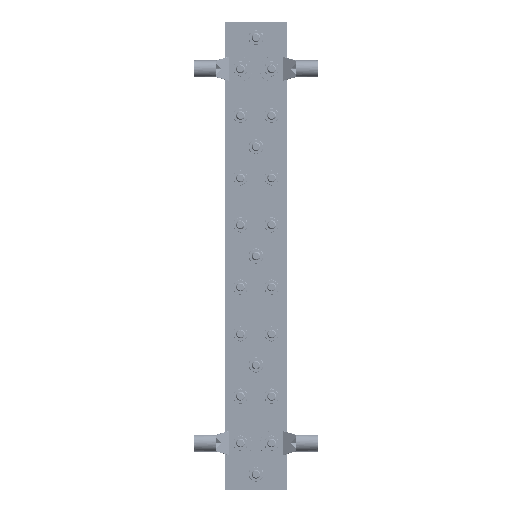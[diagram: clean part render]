
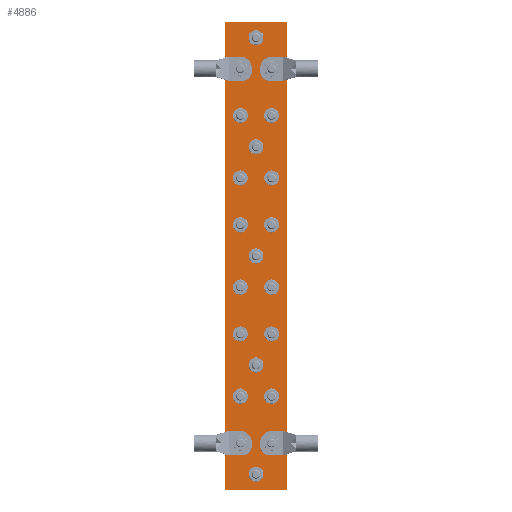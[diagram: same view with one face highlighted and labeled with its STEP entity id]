
A CAD part, top view. The second image highlights one B-rep face of the part: STEP entity #4886.
In plain terms, the highlighted planar face has unit normal (0, 0, 1) as drawn and (0, 0, -1) by its records, which use the part's own axes.
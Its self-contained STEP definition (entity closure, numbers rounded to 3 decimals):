
#738=FACE_BOUND('',#1178,.T.);
#739=FACE_BOUND('',#1179,.T.);
#740=FACE_BOUND('',#1180,.T.);
#741=FACE_BOUND('',#1181,.T.);
#742=FACE_BOUND('',#1182,.T.);
#743=FACE_BOUND('',#1183,.T.);
#744=FACE_BOUND('',#1184,.T.);
#745=FACE_BOUND('',#1185,.T.);
#746=FACE_BOUND('',#1186,.T.);
#747=FACE_BOUND('',#1187,.T.);
#748=FACE_BOUND('',#1188,.T.);
#749=FACE_BOUND('',#1189,.T.);
#750=FACE_BOUND('',#1190,.T.);
#751=FACE_BOUND('',#1191,.T.);
#752=FACE_BOUND('',#1192,.T.);
#753=FACE_BOUND('',#1193,.T.);
#754=FACE_BOUND('',#1194,.T.);
#755=FACE_BOUND('',#1195,.T.);
#756=FACE_BOUND('',#1196,.T.);
#757=FACE_BOUND('',#1197,.T.);
#758=FACE_BOUND('',#1198,.T.);
#782=PLANE('',#5294);
#879=FACE_OUTER_BOUND('',#1177,.T.);
#1177=EDGE_LOOP('',(#3461,#3462,#3463,#3464));
#1178=EDGE_LOOP('',(#3465));
#1179=EDGE_LOOP('',(#3466));
#1180=EDGE_LOOP('',(#3467));
#1181=EDGE_LOOP('',(#3468));
#1182=EDGE_LOOP('',(#3469));
#1183=EDGE_LOOP('',(#3470));
#1184=EDGE_LOOP('',(#3471));
#1185=EDGE_LOOP('',(#3472));
#1186=EDGE_LOOP('',(#3473));
#1187=EDGE_LOOP('',(#3474));
#1188=EDGE_LOOP('',(#3475));
#1189=EDGE_LOOP('',(#3476));
#1190=EDGE_LOOP('',(#3477));
#1191=EDGE_LOOP('',(#3478));
#1192=EDGE_LOOP('',(#3479));
#1193=EDGE_LOOP('',(#3480));
#1194=EDGE_LOOP('',(#3481));
#1195=EDGE_LOOP('',(#3482));
#1196=EDGE_LOOP('',(#3483));
#1197=EDGE_LOOP('',(#3484));
#1198=EDGE_LOOP('',(#3485));
#1488=LINE('',#7210,#1741);
#1492=LINE('',#7218,#1745);
#1495=LINE('',#7224,#1748);
#1498=LINE('',#7229,#1751);
#1741=VECTOR('',#5911,10.);
#1745=VECTOR('',#5917,10.);
#1748=VECTOR('',#5922,10.);
#1751=VECTOR('',#5927,10.);
#1974=CIRCLE('',#5228,5.);
#1976=CIRCLE('',#5231,5.);
#1978=CIRCLE('',#5234,5.);
#1980=CIRCLE('',#5237,5.);
#1982=CIRCLE('',#5240,5.);
#1984=CIRCLE('',#5243,5.);
#1986=CIRCLE('',#5246,5.);
#1988=CIRCLE('',#5249,5.);
#1990=CIRCLE('',#5252,5.);
#1992=CIRCLE('',#5255,5.);
#1994=CIRCLE('',#5258,5.);
#1996=CIRCLE('',#5261,5.);
#1998=CIRCLE('',#5264,5.);
#2000=CIRCLE('',#5267,5.);
#2002=CIRCLE('',#5270,5.);
#2004=CIRCLE('',#5273,5.);
#2006=CIRCLE('',#5276,5.);
#2008=CIRCLE('',#5279,5.);
#2010=CIRCLE('',#5282,5.);
#2012=CIRCLE('',#5285,5.);
#2014=CIRCLE('',#5288,5.);
#2166=VERTEX_POINT('',#7084);
#2168=VERTEX_POINT('',#7090);
#2170=VERTEX_POINT('',#7096);
#2172=VERTEX_POINT('',#7102);
#2174=VERTEX_POINT('',#7108);
#2176=VERTEX_POINT('',#7114);
#2178=VERTEX_POINT('',#7120);
#2180=VERTEX_POINT('',#7126);
#2182=VERTEX_POINT('',#7132);
#2184=VERTEX_POINT('',#7138);
#2186=VERTEX_POINT('',#7144);
#2188=VERTEX_POINT('',#7150);
#2190=VERTEX_POINT('',#7156);
#2192=VERTEX_POINT('',#7162);
#2194=VERTEX_POINT('',#7168);
#2196=VERTEX_POINT('',#7174);
#2198=VERTEX_POINT('',#7180);
#2200=VERTEX_POINT('',#7186);
#2202=VERTEX_POINT('',#7192);
#2204=VERTEX_POINT('',#7198);
#2206=VERTEX_POINT('',#7204);
#2207=VERTEX_POINT('',#7208);
#2208=VERTEX_POINT('',#7209);
#2211=VERTEX_POINT('',#7217);
#2213=VERTEX_POINT('',#7223);
#2626=EDGE_CURVE('',#2166,#2166,#1974,.T.);
#2629=EDGE_CURVE('',#2168,#2168,#1976,.T.);
#2632=EDGE_CURVE('',#2170,#2170,#1978,.T.);
#2635=EDGE_CURVE('',#2172,#2172,#1980,.T.);
#2638=EDGE_CURVE('',#2174,#2174,#1982,.T.);
#2641=EDGE_CURVE('',#2176,#2176,#1984,.T.);
#2644=EDGE_CURVE('',#2178,#2178,#1986,.T.);
#2647=EDGE_CURVE('',#2180,#2180,#1988,.T.);
#2650=EDGE_CURVE('',#2182,#2182,#1990,.T.);
#2653=EDGE_CURVE('',#2184,#2184,#1992,.T.);
#2656=EDGE_CURVE('',#2186,#2186,#1994,.T.);
#2659=EDGE_CURVE('',#2188,#2188,#1996,.T.);
#2662=EDGE_CURVE('',#2190,#2190,#1998,.T.);
#2665=EDGE_CURVE('',#2192,#2192,#2000,.T.);
#2668=EDGE_CURVE('',#2194,#2194,#2002,.T.);
#2671=EDGE_CURVE('',#2196,#2196,#2004,.T.);
#2674=EDGE_CURVE('',#2198,#2198,#2006,.T.);
#2677=EDGE_CURVE('',#2200,#2200,#2008,.T.);
#2680=EDGE_CURVE('',#2202,#2202,#2010,.T.);
#2683=EDGE_CURVE('',#2204,#2204,#2012,.T.);
#2686=EDGE_CURVE('',#2206,#2206,#2014,.T.);
#2687=EDGE_CURVE('',#2207,#2208,#1488,.T.);
#2691=EDGE_CURVE('',#2207,#2211,#1492,.T.);
#2694=EDGE_CURVE('',#2213,#2211,#1495,.T.);
#2697=EDGE_CURVE('',#2208,#2213,#1498,.T.);
#3461=ORIENTED_EDGE('',*,*,#2697,.F.);
#3462=ORIENTED_EDGE('',*,*,#2687,.F.);
#3463=ORIENTED_EDGE('',*,*,#2691,.T.);
#3464=ORIENTED_EDGE('',*,*,#2694,.F.);
#3465=ORIENTED_EDGE('',*,*,#2686,.F.);
#3466=ORIENTED_EDGE('',*,*,#2683,.F.);
#3467=ORIENTED_EDGE('',*,*,#2680,.F.);
#3468=ORIENTED_EDGE('',*,*,#2677,.F.);
#3469=ORIENTED_EDGE('',*,*,#2674,.F.);
#3470=ORIENTED_EDGE('',*,*,#2671,.F.);
#3471=ORIENTED_EDGE('',*,*,#2668,.F.);
#3472=ORIENTED_EDGE('',*,*,#2665,.F.);
#3473=ORIENTED_EDGE('',*,*,#2662,.F.);
#3474=ORIENTED_EDGE('',*,*,#2659,.F.);
#3475=ORIENTED_EDGE('',*,*,#2656,.F.);
#3476=ORIENTED_EDGE('',*,*,#2653,.F.);
#3477=ORIENTED_EDGE('',*,*,#2650,.F.);
#3478=ORIENTED_EDGE('',*,*,#2647,.F.);
#3479=ORIENTED_EDGE('',*,*,#2644,.F.);
#3480=ORIENTED_EDGE('',*,*,#2641,.F.);
#3481=ORIENTED_EDGE('',*,*,#2638,.F.);
#3482=ORIENTED_EDGE('',*,*,#2635,.F.);
#3483=ORIENTED_EDGE('',*,*,#2632,.F.);
#3484=ORIENTED_EDGE('',*,*,#2629,.F.);
#3485=ORIENTED_EDGE('',*,*,#2626,.F.);
#4886=ADVANCED_FACE('',(#879,#738,#739,#740,#741,#742,#743,#744,#745,#746,
#747,#748,#749,#750,#751,#752,#753,#754,#755,#756,#757,#758),#782,.F.);
#5228=AXIS2_PLACEMENT_3D('',#7086,#5767,#5768);
#5231=AXIS2_PLACEMENT_3D('',#7092,#5774,#5775);
#5234=AXIS2_PLACEMENT_3D('',#7098,#5781,#5782);
#5237=AXIS2_PLACEMENT_3D('',#7104,#5788,#5789);
#5240=AXIS2_PLACEMENT_3D('',#7110,#5795,#5796);
#5243=AXIS2_PLACEMENT_3D('',#7116,#5802,#5803);
#5246=AXIS2_PLACEMENT_3D('',#7122,#5809,#5810);
#5249=AXIS2_PLACEMENT_3D('',#7128,#5816,#5817);
#5252=AXIS2_PLACEMENT_3D('',#7134,#5823,#5824);
#5255=AXIS2_PLACEMENT_3D('',#7140,#5830,#5831);
#5258=AXIS2_PLACEMENT_3D('',#7146,#5837,#5838);
#5261=AXIS2_PLACEMENT_3D('',#7152,#5844,#5845);
#5264=AXIS2_PLACEMENT_3D('',#7158,#5851,#5852);
#5267=AXIS2_PLACEMENT_3D('',#7164,#5858,#5859);
#5270=AXIS2_PLACEMENT_3D('',#7170,#5865,#5866);
#5273=AXIS2_PLACEMENT_3D('',#7176,#5872,#5873);
#5276=AXIS2_PLACEMENT_3D('',#7182,#5879,#5880);
#5279=AXIS2_PLACEMENT_3D('',#7188,#5886,#5887);
#5282=AXIS2_PLACEMENT_3D('',#7194,#5893,#5894);
#5285=AXIS2_PLACEMENT_3D('',#7200,#5900,#5901);
#5288=AXIS2_PLACEMENT_3D('',#7206,#5907,#5908);
#5294=AXIS2_PLACEMENT_3D('',#7232,#5931,#5932);
#5767=DIRECTION('center_axis',(0.,0.,-1.));
#5768=DIRECTION('ref_axis',(1.,0.,0.));
#5774=DIRECTION('center_axis',(0.,0.,-1.));
#5775=DIRECTION('ref_axis',(1.,0.,0.));
#5781=DIRECTION('center_axis',(0.,0.,-1.));
#5782=DIRECTION('ref_axis',(1.,0.,0.));
#5788=DIRECTION('center_axis',(0.,0.,-1.));
#5789=DIRECTION('ref_axis',(1.,0.,0.));
#5795=DIRECTION('center_axis',(0.,0.,-1.));
#5796=DIRECTION('ref_axis',(1.,0.,0.));
#5802=DIRECTION('center_axis',(0.,0.,-1.));
#5803=DIRECTION('ref_axis',(1.,0.,0.));
#5809=DIRECTION('center_axis',(0.,0.,-1.));
#5810=DIRECTION('ref_axis',(1.,0.,0.));
#5816=DIRECTION('center_axis',(0.,0.,-1.));
#5817=DIRECTION('ref_axis',(1.,0.,0.));
#5823=DIRECTION('center_axis',(0.,0.,-1.));
#5824=DIRECTION('ref_axis',(1.,0.,0.));
#5830=DIRECTION('center_axis',(0.,0.,-1.));
#5831=DIRECTION('ref_axis',(1.,0.,0.));
#5837=DIRECTION('center_axis',(0.,0.,-1.));
#5838=DIRECTION('ref_axis',(1.,0.,0.));
#5844=DIRECTION('center_axis',(0.,0.,-1.));
#5845=DIRECTION('ref_axis',(1.,0.,0.));
#5851=DIRECTION('center_axis',(0.,0.,-1.));
#5852=DIRECTION('ref_axis',(1.,0.,0.));
#5858=DIRECTION('center_axis',(0.,0.,-1.));
#5859=DIRECTION('ref_axis',(1.,0.,0.));
#5865=DIRECTION('center_axis',(0.,0.,-1.));
#5866=DIRECTION('ref_axis',(1.,0.,0.));
#5872=DIRECTION('center_axis',(0.,0.,-1.));
#5873=DIRECTION('ref_axis',(1.,0.,0.));
#5879=DIRECTION('center_axis',(0.,0.,-1.));
#5880=DIRECTION('ref_axis',(1.,0.,0.));
#5886=DIRECTION('center_axis',(0.,0.,-1.));
#5887=DIRECTION('ref_axis',(1.,0.,0.));
#5893=DIRECTION('center_axis',(0.,0.,-1.));
#5894=DIRECTION('ref_axis',(1.,0.,0.));
#5900=DIRECTION('center_axis',(0.,0.,-1.));
#5901=DIRECTION('ref_axis',(1.,0.,0.));
#5907=DIRECTION('center_axis',(0.,0.,-1.));
#5908=DIRECTION('ref_axis',(1.,0.,0.));
#5911=DIRECTION('',(-1.,0.,0.));
#5917=DIRECTION('',(0.,-1.,0.));
#5922=DIRECTION('',(1.,0.,0.));
#5927=DIRECTION('',(0.,-1.,0.));
#5931=DIRECTION('center_axis',(0.,0.,1.));
#5932=DIRECTION('ref_axis',(1.,0.,0.));
#7084=CARTESIAN_POINT('',(595.,75.,0.));
#7086=CARTESIAN_POINT('Origin',(600.,75.,0.));
#7090=CARTESIAN_POINT('',(495.,75.,0.));
#7092=CARTESIAN_POINT('Origin',(500.,75.,0.));
#7096=CARTESIAN_POINT('',(495.,25.,0.));
#7098=CARTESIAN_POINT('Origin',(500.,25.,0.));
#7102=CARTESIAN_POINT('',(245.,75.,0.));
#7104=CARTESIAN_POINT('Origin',(250.,75.,0.));
#7108=CARTESIAN_POINT('',(420.,25.,0.));
#7110=CARTESIAN_POINT('Origin',(425.,25.,0.));
#7114=CARTESIAN_POINT('',(195.,50.,0.));
#7116=CARTESIAN_POINT('Origin',(200.,50.,0.));
#7120=CARTESIAN_POINT('',(70.,25.,0.));
#7122=CARTESIAN_POINT('Origin',(75.,25.,0.));
#7126=CARTESIAN_POINT('',(20.,50.,0.));
#7128=CARTESIAN_POINT('Origin',(25.,50.,0.));
#7132=CARTESIAN_POINT('',(70.,75.,0.));
#7134=CARTESIAN_POINT('Origin',(75.,75.,0.));
#7138=CARTESIAN_POINT('',(320.,75.,0.));
#7140=CARTESIAN_POINT('Origin',(325.,75.,0.));
#7144=CARTESIAN_POINT('',(370.,50.,0.));
#7146=CARTESIAN_POINT('Origin',(375.,50.,0.));
#7150=CARTESIAN_POINT('',(320.,25.,0.));
#7152=CARTESIAN_POINT('Origin',(325.,25.,0.));
#7156=CARTESIAN_POINT('',(245.,25.,0.));
#7158=CARTESIAN_POINT('Origin',(250.,25.,0.));
#7162=CARTESIAN_POINT('',(420.,75.,0.));
#7164=CARTESIAN_POINT('Origin',(425.,75.,0.));
#7168=CARTESIAN_POINT('',(595.,25.,0.));
#7170=CARTESIAN_POINT('Origin',(600.,25.,0.));
#7174=CARTESIAN_POINT('',(145.,75.,0.));
#7176=CARTESIAN_POINT('Origin',(150.,75.,0.));
#7180=CARTESIAN_POINT('',(145.,25.,0.));
#7182=CARTESIAN_POINT('Origin',(150.,25.,0.));
#7186=CARTESIAN_POINT('',(720.,50.,0.));
#7188=CARTESIAN_POINT('Origin',(725.,50.,0.));
#7192=CARTESIAN_POINT('',(670.,75.,0.));
#7194=CARTESIAN_POINT('Origin',(675.,75.,0.));
#7198=CARTESIAN_POINT('',(670.,25.,0.));
#7200=CARTESIAN_POINT('Origin',(675.,25.,0.));
#7204=CARTESIAN_POINT('',(545.,50.,0.));
#7206=CARTESIAN_POINT('Origin',(550.,50.,0.));
#7208=CARTESIAN_POINT('',(750.,100.,0.));
#7209=CARTESIAN_POINT('',(0.,100.,0.));
#7210=CARTESIAN_POINT('',(750.,100.,0.));
#7217=CARTESIAN_POINT('',(750.,0.,0.));
#7218=CARTESIAN_POINT('',(750.,100.,0.));
#7223=CARTESIAN_POINT('',(0.,0.,0.));
#7224=CARTESIAN_POINT('',(0.,0.,0.));
#7229=CARTESIAN_POINT('',(0.,100.,0.));
#7232=CARTESIAN_POINT('Origin',(375.,50.,0.));
